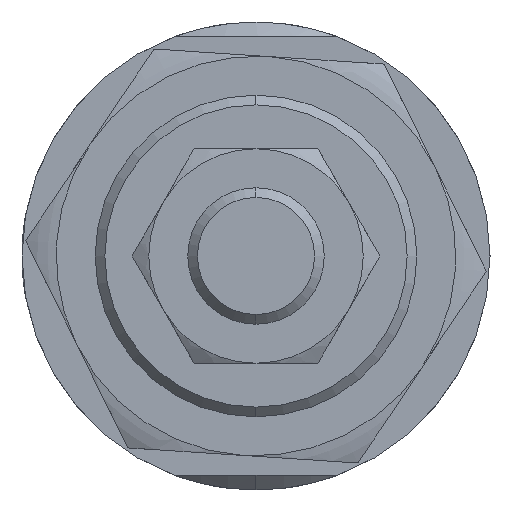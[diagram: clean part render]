
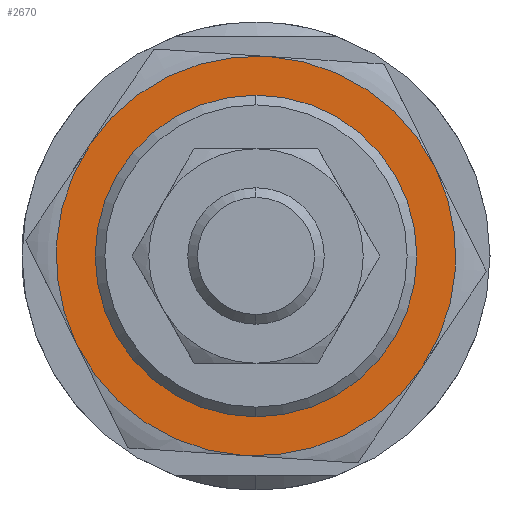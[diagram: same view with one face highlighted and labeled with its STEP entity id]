
A CAD part, left-side view. The second image highlights one B-rep face of the part: STEP entity #2670.
In plain terms, the highlighted planar face has unit normal (-1, 0, 0) as drawn and (0, 0, -1) by its records, which use the part's own axes.
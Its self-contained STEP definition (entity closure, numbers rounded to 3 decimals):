
#88 = CARTESIAN_POINT ( 'NONE',  ( 10.25, 17.754, -5.5 ) ) ;
#95 = DIRECTION ( 'NONE',  ( 1., 0., 0. ) ) ;
#212 = ORIENTED_EDGE ( 'NONE', *, *, #2033, .F. ) ;
#236 = DIRECTION ( 'NONE',  ( 0., 0., 1. ) ) ;
#252 = ORIENTED_EDGE ( 'NONE', *, *, #2857, .F. ) ;
#265 = AXIS2_PLACEMENT_3D ( 'NONE', #732, #2528, #432 ) ;
#276 = EDGE_CURVE ( 'NONE', #2989, #3171, #1629, .T. ) ;
#314 = CARTESIAN_POINT ( 'NONE',  ( 10.25, -17.754, -5.5 ) ) ;
#339 = EDGE_CURVE ( 'NONE', #625, #2512, #2874, .T. ) ;
#401 = CARTESIAN_POINT ( 'NONE',  ( 20.5, 0., -5.5 ) ) ;
#406 = AXIS2_PLACEMENT_3D ( 'NONE', #1785, #2514, #746 ) ;
#424 = CARTESIAN_POINT ( 'NONE',  ( 0., 0., -5.5 ) ) ;
#432 = DIRECTION ( 'NONE',  ( 1., 0., 0. ) ) ;
#467 = AXIS2_PLACEMENT_3D ( 'NONE', #1267, #1991, #1223 ) ;
#560 = CIRCLE ( 'NONE', #1185, 20.5 ) ;
#625 = VERTEX_POINT ( 'NONE', #1526 ) ;
#647 = CIRCLE ( 'NONE', #2135, 20.5 ) ;
#722 = DIRECTION ( 'NONE',  ( 1., 0., 0. ) ) ;
#732 = CARTESIAN_POINT ( 'NONE',  ( 0., 0., -5.5 ) ) ;
#746 = DIRECTION ( 'NONE',  ( 1., 0., 0. ) ) ;
#787 = CARTESIAN_POINT ( 'NONE',  ( 0., 0., -5.5 ) ) ;
#813 = DIRECTION ( 'NONE',  ( 1., 0., 0. ) ) ;
#826 = CARTESIAN_POINT ( 'NONE',  ( -10.25, 17.754, -5.5 ) ) ;
#835 = ORIENTED_EDGE ( 'NONE', *, *, #2888, .F. ) ;
#846 = FACE_BOUND ( 'NONE', #2324, .T. ) ;
#926 = EDGE_CURVE ( 'NONE', #1177, #2558, #647, .T. ) ;
#936 = DIRECTION ( 'NONE',  ( 1., 0., 0. ) ) ;
#947 = DIRECTION ( 'NONE',  ( 0., 0., 1. ) ) ;
#999 = ORIENTED_EDGE ( 'NONE', *, *, #339, .F. ) ;
#1045 = FACE_OUTER_BOUND ( 'NONE', #2035, .T. ) ;
#1076 = CARTESIAN_POINT ( 'NONE',  ( 0., 0., -5.5 ) ) ;
#1077 = ORIENTED_EDGE ( 'NONE', *, *, #1466, .T. ) ;
#1145 = CARTESIAN_POINT ( 'NONE',  ( -15.5, 0., -5.5 ) ) ;
#1177 = VERTEX_POINT ( 'NONE', #88 ) ;
#1185 = AXIS2_PLACEMENT_3D ( 'NONE', #1076, #1595, #1305 ) ;
#1201 = AXIS2_PLACEMENT_3D ( 'NONE', #424, #2711, #936 ) ;
#1223 = DIRECTION ( 'NONE',  ( 1., 0., 0. ) ) ;
#1267 = CARTESIAN_POINT ( 'NONE',  ( 0., 0., -5.5 ) ) ;
#1286 = VERTEX_POINT ( 'NONE', #401 ) ;
#1305 = DIRECTION ( 'NONE',  ( 1., 0., 0. ) ) ;
#1466 = EDGE_CURVE ( 'NONE', #3171, #2989, #1576, .T. ) ;
#1492 = CARTESIAN_POINT ( 'NONE',  ( 0., 0., -5.5 ) ) ;
#1510 = PLANE ( 'NONE',  #406 ) ;
#1526 = CARTESIAN_POINT ( 'NONE',  ( -10.25, -17.754, -5.5 ) ) ;
#1555 = DIRECTION ( 'NONE',  ( 0., 0., 1. ) ) ;
#1576 = CIRCLE ( 'NONE', #265, 15.5 ) ;
#1586 = AXIS2_PLACEMENT_3D ( 'NONE', #787, #1555, #813 ) ;
#1595 = DIRECTION ( 'NONE',  ( 0., 0., 1. ) ) ;
#1623 = DIRECTION ( 'NONE',  ( 0., 0., 1. ) ) ;
#1629 = CIRCLE ( 'NONE', #1201, 15.5 ) ;
#1733 = DIRECTION ( 'NONE',  ( 1., 0., 0. ) ) ;
#1785 = CARTESIAN_POINT ( 'NONE',  ( 0., 0., -5.5 ) ) ;
#1811 = CARTESIAN_POINT ( 'NONE',  ( -20.5, 0., -5.5 ) ) ;
#1815 = ORIENTED_EDGE ( 'NONE', *, *, #276, .T. ) ;
#1831 = EDGE_CURVE ( 'NONE', #1286, #1177, #2496, .T. ) ;
#1991 = DIRECTION ( 'NONE',  ( 0., 0., 1. ) ) ;
#2019 = CIRCLE ( 'NONE', #3290, 20.5 ) ;
#2033 = EDGE_CURVE ( 'NONE', #2558, #3091, #2019, .T. ) ;
#2035 = EDGE_LOOP ( 'NONE', ( #2372, #835, #999, #252, #212, #2870 ) ) ;
#2135 = AXIS2_PLACEMENT_3D ( 'NONE', #1492, #236, #722 ) ;
#2324 = EDGE_LOOP ( 'NONE', ( #1077, #1815 ) ) ;
#2372 = ORIENTED_EDGE ( 'NONE', *, *, #1831, .F. ) ;
#2485 = CARTESIAN_POINT ( 'NONE',  ( 0., 0., -5.5 ) ) ;
#2496 = CIRCLE ( 'NONE', #467, 20.5 ) ;
#2512 = VERTEX_POINT ( 'NONE', #314 ) ;
#2514 = DIRECTION ( 'NONE',  ( 0., 0., 1. ) ) ;
#2528 = DIRECTION ( 'NONE',  ( 0., 0., 1. ) ) ;
#2558 = VERTEX_POINT ( 'NONE', #826 ) ;
#2569 = AXIS2_PLACEMENT_3D ( 'NONE', #2485, #947, #1733 ) ;
#2609 = CIRCLE ( 'NONE', #1586, 20.5 ) ;
#2629 = CARTESIAN_POINT ( 'NONE',  ( 0., 0., -5.5 ) ) ;
#2670 = ADVANCED_FACE ( 'NONE', ( #846, #1045 ), #1510, .F. ) ;
#2711 = DIRECTION ( 'NONE',  ( 0., 0., 1. ) ) ;
#2857 = EDGE_CURVE ( 'NONE', #3091, #625, #2609, .T. ) ;
#2870 = ORIENTED_EDGE ( 'NONE', *, *, #926, .F. ) ;
#2874 = CIRCLE ( 'NONE', #2569, 20.5 ) ;
#2888 = EDGE_CURVE ( 'NONE', #2512, #1286, #560, .T. ) ;
#2989 = VERTEX_POINT ( 'NONE', #1145 ) ;
#3091 = VERTEX_POINT ( 'NONE', #1811 ) ;
#3098 = CARTESIAN_POINT ( 'NONE',  ( 15.5, 0., -5.5 ) ) ;
#3171 = VERTEX_POINT ( 'NONE', #3098 ) ;
#3290 = AXIS2_PLACEMENT_3D ( 'NONE', #2629, #1623, #95 ) ;
